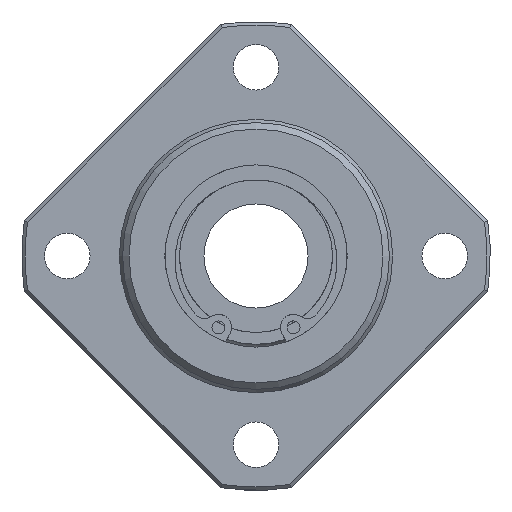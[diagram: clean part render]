
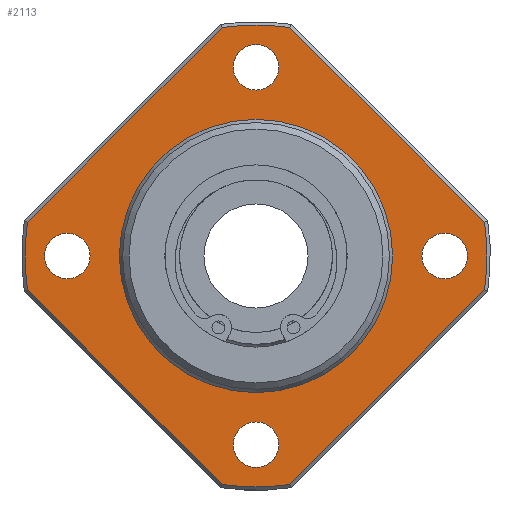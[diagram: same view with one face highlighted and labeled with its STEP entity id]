
A CAD part, left-side view. The second image highlights one B-rep face of the part: STEP entity #2113.
In plain terms, the highlighted planar face has unit normal (-1, 0, 0).
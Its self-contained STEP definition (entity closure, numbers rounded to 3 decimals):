
#1800=CARTESIAN_POINT('',(71.,-5.186,-35.119));
#1801=VERTEX_POINT('',#1800);
#1809=CARTESIAN_POINT('',(71.,5.186,-35.119));
#1810=VERTEX_POINT('',#1809);
#1811=CARTESIAN_POINT('',(71.,0.0,0.0));
#1812=DIRECTION('',(1.0,0.0,0.0));
#1813=DIRECTION('',(0.0,0.0,-1.0));
#1814=AXIS2_PLACEMENT_3D('',#1811,#1812,#1813);
#1815=CIRCLE('',#1814,35.5);
#1816=EDGE_CURVE('',#1801,#1810,#1815,.T.);
#1835=CARTESIAN_POINT('',(71.,35.119,-5.186));
#1836=VERTEX_POINT('',#1835);
#1837=CARTESIAN_POINT('',(71.,5.186,-35.119));
#1838=DIRECTION('',(0.0,0.707,0.707));
#1839=VECTOR('',#1838,42.332);
#1840=LINE('',#1837,#1839);
#1841=EDGE_CURVE('',#1810,#1836,#1840,.T.);
#1868=CARTESIAN_POINT('',(71.,35.119,5.186));
#1869=VERTEX_POINT('',#1868);
#1870=CARTESIAN_POINT('',(71.,0.0,0.0));
#1871=DIRECTION('',(1.0,0.0,0.0));
#1872=DIRECTION('',(0.0,0.0,1.0));
#1873=AXIS2_PLACEMENT_3D('',#1870,#1871,#1872);
#1874=CIRCLE('',#1873,35.5);
#1875=EDGE_CURVE('',#1836,#1869,#1874,.T.);
#1901=CARTESIAN_POINT('',(71.,5.186,35.119));
#1902=VERTEX_POINT('',#1901);
#1903=CARTESIAN_POINT('',(71.,35.119,5.186));
#1904=DIRECTION('',(0.0,-0.707,0.707));
#1905=VECTOR('',#1904,42.332);
#1906=LINE('',#1903,#1905);
#1907=EDGE_CURVE('',#1869,#1902,#1906,.T.);
#1934=CARTESIAN_POINT('',(71.,-5.186,35.119));
#1935=VERTEX_POINT('',#1934);
#1936=CARTESIAN_POINT('',(71.,0.0,0.0));
#1937=DIRECTION('',(1.0,0.0,0.0));
#1938=DIRECTION('',(0.0,0.0,1.0));
#1939=AXIS2_PLACEMENT_3D('',#1936,#1937,#1938);
#1940=CIRCLE('',#1939,35.5);
#1941=EDGE_CURVE('',#1902,#1935,#1940,.T.);
#1965=CARTESIAN_POINT('',(71.,-35.119,5.186));
#1966=VERTEX_POINT('',#1965);
#1967=CARTESIAN_POINT('',(71.,-5.186,35.119));
#1968=DIRECTION('',(0.0,-0.707,-0.707));
#1969=VECTOR('',#1968,42.332);
#1970=LINE('',#1967,#1969);
#1971=EDGE_CURVE('',#1935,#1966,#1970,.T.);
#1990=CARTESIAN_POINT('',(71.,-35.119,-5.186));
#1991=VERTEX_POINT('',#1990);
#1992=CARTESIAN_POINT('',(71.,0.0,0.0));
#1993=DIRECTION('',(1.0,0.0,0.0));
#1994=DIRECTION('',(0.0,0.0,1.0));
#1995=AXIS2_PLACEMENT_3D('',#1992,#1993,#1994);
#1996=CIRCLE('',#1995,35.5);
#1997=EDGE_CURVE('',#1966,#1991,#1996,.T.);
#2016=CARTESIAN_POINT('',(71.,-35.119,-5.186));
#2017=DIRECTION('',(0.0,0.707,-0.707));
#2018=VECTOR('',#2017,42.332);
#2019=LINE('',#2016,#2018);
#2020=EDGE_CURVE('',#1991,#1801,#2019,.T.);
#2043=CARTESIAN_POINT('',(71.,0.0,28.5));
#2044=DIRECTION('',(-1.0,0.0,0.0));
#2045=DIRECTION('',(0.0,0.0,1.0));
#2046=AXIS2_PLACEMENT_3D('',#2043,#2044,#2045);
#2047=PLANE('',#2046);
#2048=ORIENTED_EDGE('',*,*,#1816,.F.);
#2049=ORIENTED_EDGE('',*,*,#2020,.F.);
#2050=ORIENTED_EDGE('',*,*,#1997,.F.);
#2051=ORIENTED_EDGE('',*,*,#1971,.F.);
#2052=ORIENTED_EDGE('',*,*,#1941,.F.);
#2053=ORIENTED_EDGE('',*,*,#1907,.F.);
#2054=ORIENTED_EDGE('',*,*,#1875,.F.);
#2055=ORIENTED_EDGE('',*,*,#1841,.F.);
#2056=EDGE_LOOP('',(#2048,#2049,#2050,#2051,#2052,#2053,#2054,#2055));
#2057=FACE_OUTER_BOUND('',#2056,.T.);
#2058=CARTESIAN_POINT('',(71.,0.0,21.));
#2059=VERTEX_POINT('',#2058);
#2060=CARTESIAN_POINT('',(71.,0.0,0.0));
#2061=DIRECTION('',(-1.0,0.0,0.0));
#2062=DIRECTION('',(0.0,0.0,1.0));
#2063=AXIS2_PLACEMENT_3D('',#2060,#2061,#2062);
#2064=CIRCLE('',#2063,21.);
#2065=EDGE_CURVE('',#2059,#2059,#2064,.T.);
#2066=ORIENTED_EDGE('',*,*,#2065,.F.);
#2067=EDGE_LOOP('',(#2066));
#2068=FACE_BOUND('',#2067,.T.);
#2069=CARTESIAN_POINT('',(71.0,3.5,29.));
#2070=VERTEX_POINT('',#2069);
#2071=CARTESIAN_POINT('',(71.,0.,29.));
#2072=DIRECTION('',(1.0,0.0,0.0));
#2073=DIRECTION('',(0.0,1.0,0.0));
#2074=AXIS2_PLACEMENT_3D('',#2071,#2072,#2073);
#2075=CIRCLE('',#2074,3.5);
#2076=EDGE_CURVE('',#2070,#2070,#2075,.T.);
#2077=ORIENTED_EDGE('',*,*,#2076,.T.);
#2078=EDGE_LOOP('',(#2077));
#2079=FACE_BOUND('',#2078,.T.);
#2080=CARTESIAN_POINT('',(71.0,-29.,3.5));
#2081=VERTEX_POINT('',#2080);
#2082=CARTESIAN_POINT('',(71.,-29.,0.));
#2083=DIRECTION('',(1.0,0.0,0.0));
#2084=DIRECTION('',(0.0,0.0,1.0));
#2085=AXIS2_PLACEMENT_3D('',#2082,#2083,#2084);
#2086=CIRCLE('',#2085,3.5);
#2087=EDGE_CURVE('',#2081,#2081,#2086,.T.);
#2088=ORIENTED_EDGE('',*,*,#2087,.T.);
#2089=EDGE_LOOP('',(#2088));
#2090=FACE_BOUND('',#2089,.T.);
#2091=CARTESIAN_POINT('',(71.0,-3.5,-29.));
#2092=VERTEX_POINT('',#2091);
#2093=CARTESIAN_POINT('',(71.,0.,-29.));
#2094=DIRECTION('',(1.0,0.0,0.0));
#2095=DIRECTION('',(0.0,-1.0,0.0));
#2096=AXIS2_PLACEMENT_3D('',#2093,#2094,#2095);
#2097=CIRCLE('',#2096,3.5);
#2098=EDGE_CURVE('',#2092,#2092,#2097,.T.);
#2099=ORIENTED_EDGE('',*,*,#2098,.T.);
#2100=EDGE_LOOP('',(#2099));
#2101=FACE_BOUND('',#2100,.T.);
#2102=CARTESIAN_POINT('',(71.0,29.,-3.5));
#2103=VERTEX_POINT('',#2102);
#2104=CARTESIAN_POINT('',(71.,29.,0.));
#2105=DIRECTION('',(1.0,0.0,0.0));
#2106=DIRECTION('',(0.0,0.0,-1.0));
#2107=AXIS2_PLACEMENT_3D('',#2104,#2105,#2106);
#2108=CIRCLE('',#2107,3.5);
#2109=EDGE_CURVE('',#2103,#2103,#2108,.T.);
#2110=ORIENTED_EDGE('',*,*,#2109,.T.);
#2111=EDGE_LOOP('',(#2110));
#2112=FACE_BOUND('',#2111,.T.);
#2113=ADVANCED_FACE('',(#2057,#2068,#2079,#2090,#2101,#2112),#2047,.T.);
